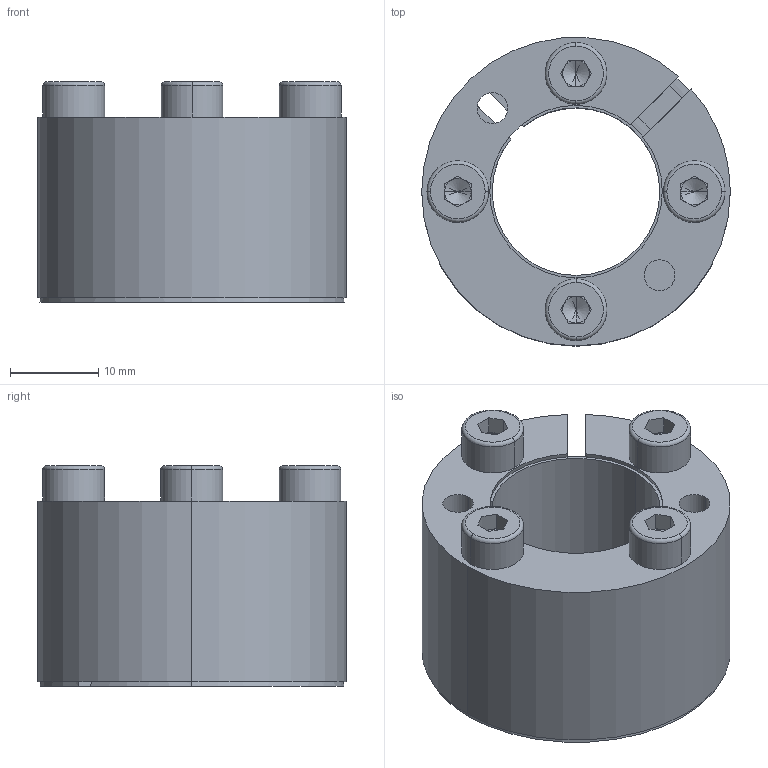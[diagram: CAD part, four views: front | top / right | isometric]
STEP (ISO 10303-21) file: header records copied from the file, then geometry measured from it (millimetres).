
FILE_DESCRIPTION (( 'STEP AP214' ), '1' );
FILE_NAME ('CONEX-K-19x35.step', '2013-04-06T13:20:44', ( 'Pc' ), ( '' ), 'SwSTEP 2.0', 'SolidWorks 2013', '' );
FILE_SCHEMA (( 'AUTOMOTIVE_DESIGN' ));
Length unit declared in the file: millimetre
Products named in the file (1): CONEX-K-19x35
Bounding box: 35 x 34.96 x 24.99 mm (x, y, z)
Volume: 11389.8 mm3; surface area: 11522.7 mm2
Topology: 6 solids, 6 shells, 162 faces, 378 edges, 228 vertices
Faces by surface type: plane 70, cylinder 48, cone 28, torus 16
Entity records: 6473 total; most frequent: DIRECTION 866, CARTESIAN_POINT 785, ORIENTED_EDGE 740, EDGE_CURVE 370, AXIS2_PLACEMENT_3D 341, VERTEX_POINT 228, EDGE_LOOP 190, LINE 184
